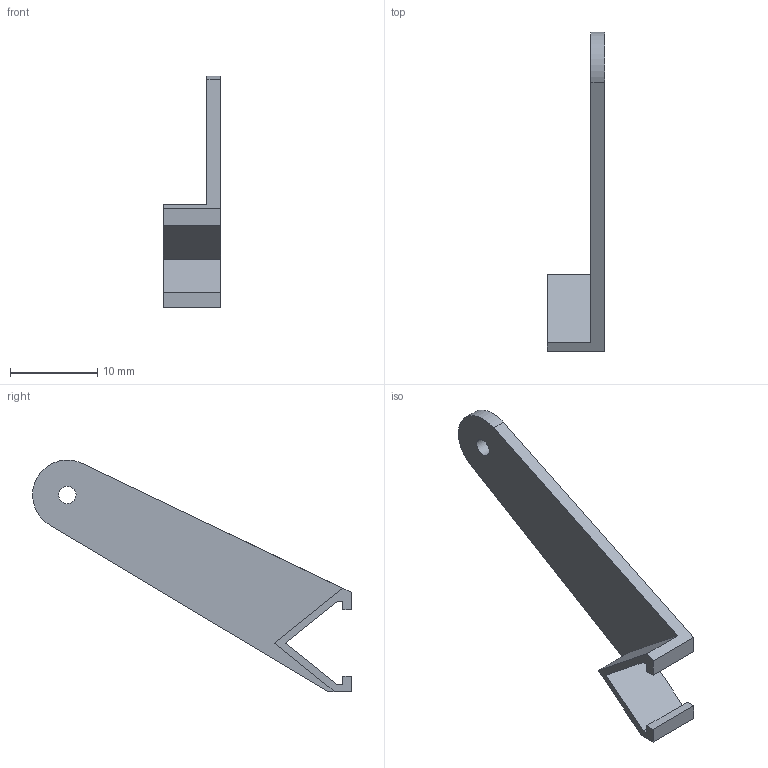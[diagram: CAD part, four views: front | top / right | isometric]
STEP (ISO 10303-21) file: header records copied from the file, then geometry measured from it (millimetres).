
FILE_DESCRIPTION(('FreeCAD Model'),'2;1');
FILE_NAME('Open CASCADE Shape Model','2026-05-03T13:38:13',(''),(''), 'Open CASCADE STEP processor 7.8','FreeCAD','Unknown');
FILE_SCHEMA(('AUTOMOTIVE_DESIGN { 1 0 10303 214 1 1 1 1 }'));
Length unit declared in the file: millimetre
Products named in the file (1): elevator_control
Bounding box: 6.6 x 36.6 x 26.59 mm (x, y, z)
Volume: 634.2 mm3; surface area: 1094.2 mm2
Topology: 1 solids, 1 shells, 20 faces, 54 edges, 36 vertices
Faces by surface type: plane 18, cylinder 2
Full cylindrical faces by diameter (mm): 2 x1
Entity records: 648 total; most frequent: CARTESIAN_POINT 111, ORIENTED_EDGE 108, DIRECTION 100, EDGE_CURVE 54, LINE 50, VECTOR 50, VERTEX_POINT 36, AXIS2_PLACEMENT_3D 25
